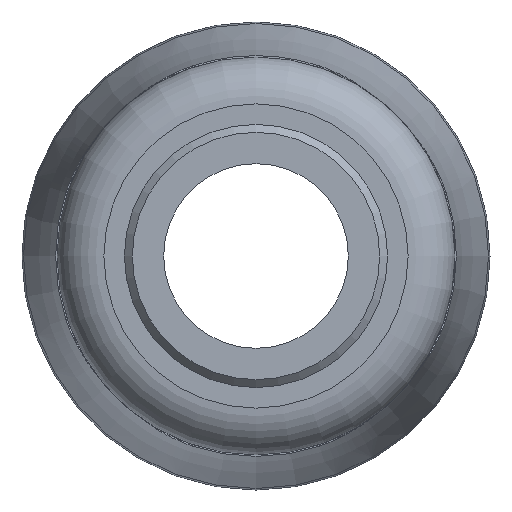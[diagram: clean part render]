
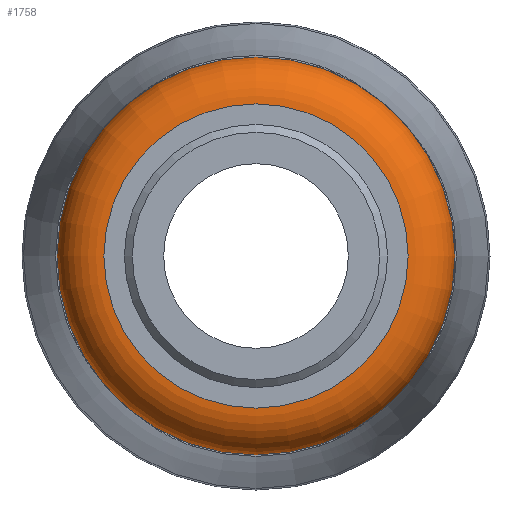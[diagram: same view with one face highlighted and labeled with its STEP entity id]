
A CAD part, left-side view. The second image highlights one B-rep face of the part: STEP entity #1758.
In plain terms, the highlighted toroidal (fillet/blend) face has major radius 27.625 mm and minor radius 8.5 mm.
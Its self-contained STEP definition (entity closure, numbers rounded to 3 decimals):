
#16=TOROIDAL_SURFACE('',#1948,27.625,8.5);
#217=FACE_OUTER_BOUND('',#318,.T.);
#318=EDGE_LOOP('',(#1314,#1315,#1316,#1317,#1318,#1319,#1320));
#610=CIRCLE('',#1916,36.125);
#611=CIRCLE('',#1917,36.125);
#612=CIRCLE('',#1918,36.125);
#634=CIRCLE('',#1949,8.5);
#635=CIRCLE('',#1950,27.625);
#636=CIRCLE('',#1951,27.625);
#742=VERTEX_POINT('',#3035);
#743=VERTEX_POINT('',#3037);
#744=VERTEX_POINT('',#3039);
#762=VERTEX_POINT('',#3117);
#763=VERTEX_POINT('',#3119);
#934=EDGE_CURVE('',#743,#742,#610,.T.);
#935=EDGE_CURVE('',#744,#743,#611,.T.);
#936=EDGE_CURVE('',#742,#744,#612,.T.);
#964=EDGE_CURVE('',#744,#762,#634,.T.);
#965=EDGE_CURVE('',#762,#763,#635,.T.);
#966=EDGE_CURVE('',#763,#762,#636,.T.);
#1314=ORIENTED_EDGE('',*,*,#934,.T.);
#1315=ORIENTED_EDGE('',*,*,#936,.T.);
#1316=ORIENTED_EDGE('',*,*,#964,.T.);
#1317=ORIENTED_EDGE('',*,*,#965,.T.);
#1318=ORIENTED_EDGE('',*,*,#966,.T.);
#1319=ORIENTED_EDGE('',*,*,#964,.F.);
#1320=ORIENTED_EDGE('',*,*,#935,.T.);
#1758=ADVANCED_FACE('',(#217),#16,.T.);
#1916=AXIS2_PLACEMENT_3D('',#3038,#2214,#2215);
#1917=AXIS2_PLACEMENT_3D('',#3040,#2216,#2217);
#1918=AXIS2_PLACEMENT_3D('',#3041,#2218,#2219);
#1948=AXIS2_PLACEMENT_3D('',#3116,#2282,#2283);
#1949=AXIS2_PLACEMENT_3D('',#3118,#2284,#2285);
#1950=AXIS2_PLACEMENT_3D('',#3120,#2286,#2287);
#1951=AXIS2_PLACEMENT_3D('',#3121,#2288,#2289);
#2214=DIRECTION('center_axis',(-1.,0.,0.));
#2215=DIRECTION('ref_axis',(0.,-1.,0.));
#2216=DIRECTION('center_axis',(-1.,0.,0.));
#2217=DIRECTION('ref_axis',(0.,-1.,0.));
#2218=DIRECTION('center_axis',(-1.,0.,0.));
#2219=DIRECTION('ref_axis',(0.,-1.,0.));
#2282=DIRECTION('center_axis',(1.,0.,0.));
#2283=DIRECTION('ref_axis',(0.,0.,-1.));
#2284=DIRECTION('center_axis',(0.,-1.,0.));
#2285=DIRECTION('ref_axis',(0.,0.,1.));
#2286=DIRECTION('center_axis',(1.,0.,0.));
#2287=DIRECTION('ref_axis',(0.,-1.,0.));
#2288=DIRECTION('center_axis',(1.,0.,0.));
#2289=DIRECTION('ref_axis',(0.,-1.,0.));
#3035=CARTESIAN_POINT('',(27.5,-36.125,0.));
#3037=CARTESIAN_POINT('',(27.5,36.125,0.));
#3038=CARTESIAN_POINT('Origin',(27.5,0.,0.));
#3039=CARTESIAN_POINT('',(27.5,0.,36.125));
#3040=CARTESIAN_POINT('Origin',(27.5,0.,0.));
#3041=CARTESIAN_POINT('Origin',(27.5,0.,0.));
#3116=CARTESIAN_POINT('Origin',(27.5,0.,0.));
#3117=CARTESIAN_POINT('',(19.,0.,27.625));
#3118=CARTESIAN_POINT('Origin',(27.5,0.,27.625));
#3119=CARTESIAN_POINT('',(19.,27.625,0.));
#3120=CARTESIAN_POINT('Origin',(19.,0.,0.));
#3121=CARTESIAN_POINT('Origin',(19.,0.,0.));
